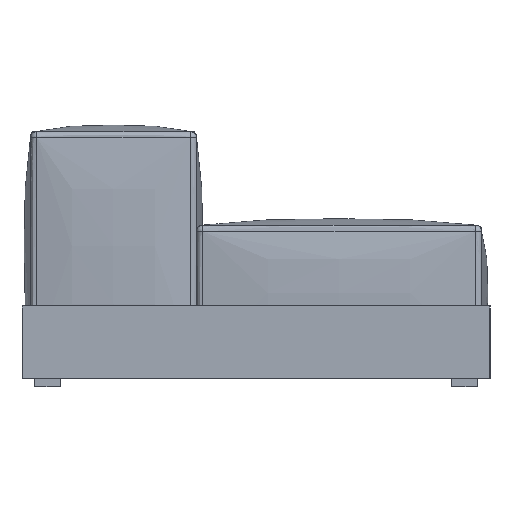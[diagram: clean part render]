
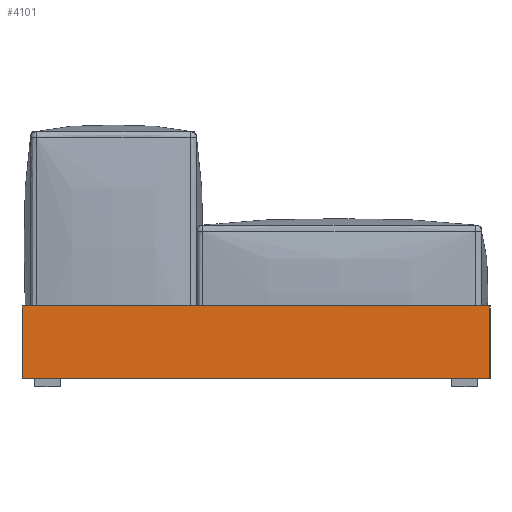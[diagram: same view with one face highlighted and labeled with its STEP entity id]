
A CAD part, left-side view. The second image highlights one B-rep face of the part: STEP entity #4101.
In plain terms, the highlighted planar face has unit normal (-1, 0, 0).
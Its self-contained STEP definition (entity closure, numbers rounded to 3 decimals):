
#145=PLANE('',#4621);
#297=LINE('',#17889,#533);
#298=LINE('',#17891,#534);
#299=LINE('',#17893,#535);
#300=LINE('',#17894,#536);
#533=VECTOR('',#5429,10.);
#534=VECTOR('',#5430,10.);
#535=VECTOR('',#5431,10.);
#536=VECTOR('',#5432,10.);
#1189=FACE_OUTER_BOUND('',#1493,.T.);
#1493=EDGE_LOOP('',(#3481,#3482,#3483,#3484));
#1977=VERTEX_POINT('',#17887);
#1978=VERTEX_POINT('',#17888);
#1979=VERTEX_POINT('',#17890);
#1980=VERTEX_POINT('',#17892);
#2497=EDGE_CURVE('',#1977,#1978,#297,.T.);
#2498=EDGE_CURVE('',#1977,#1979,#298,.T.);
#2499=EDGE_CURVE('',#1980,#1979,#299,.T.);
#2500=EDGE_CURVE('',#1978,#1980,#300,.T.);
#3481=ORIENTED_EDGE('',*,*,#2497,.F.);
#3482=ORIENTED_EDGE('',*,*,#2498,.T.);
#3483=ORIENTED_EDGE('',*,*,#2499,.F.);
#3484=ORIENTED_EDGE('',*,*,#2500,.F.);
#4101=ADVANCED_FACE('',(#1189),#145,.T.);
#4621=AXIS2_PLACEMENT_3D('',#17886,#5427,#5428);
#5427=DIRECTION('center_axis',(-1.,0.,0.));
#5428=DIRECTION('ref_axis',(0.,-1.,0.));
#5429=DIRECTION('',(0.,1.,0.));
#5430=DIRECTION('',(0.,0.,1.));
#5431=DIRECTION('',(0.,-1.,0.));
#5432=DIRECTION('',(0.,0.,1.));
#17886=CARTESIAN_POINT('Origin',(-1500.,550.,0.));
#17887=CARTESIAN_POINT('',(-1500.,-550.,0.));
#17888=CARTESIAN_POINT('',(-1500.,550.,0.));
#17889=CARTESIAN_POINT('',(-1500.,-550.,0.));
#17890=CARTESIAN_POINT('',(-1500.,-550.,170.));
#17891=CARTESIAN_POINT('',(-1500.,-550.,0.));
#17892=CARTESIAN_POINT('',(-1500.,550.,170.));
#17893=CARTESIAN_POINT('',(-1500.,-550.,170.));
#17894=CARTESIAN_POINT('',(-1500.,550.,0.));
